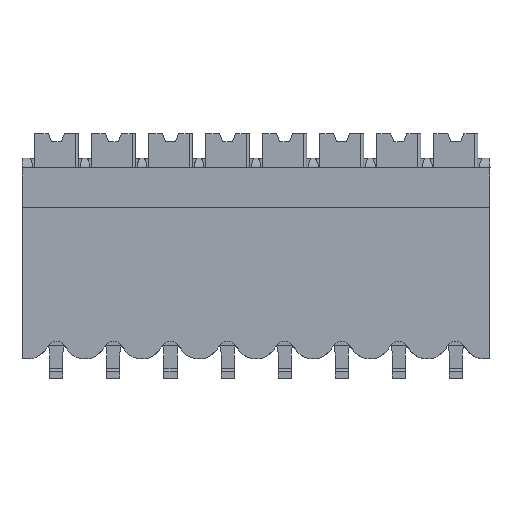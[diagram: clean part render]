
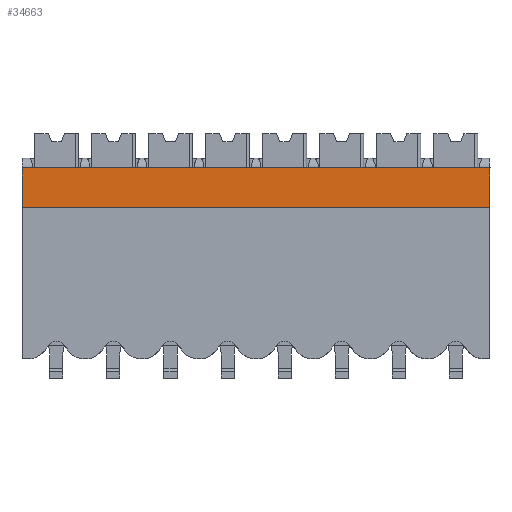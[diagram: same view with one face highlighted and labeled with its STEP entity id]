
A CAD part, front view. The second image highlights one B-rep face of the part: STEP entity #34663.
In plain terms, the highlighted planar face has unit normal (0, -1, 0).
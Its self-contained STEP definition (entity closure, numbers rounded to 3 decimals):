
#875 = EDGE_LOOP ( 'NONE', ( #21375, #29618, #47784, #5857 ) ) ;
#5635 = VECTOR ( 'NONE', #50953, 1000. ) ;
#5857 = ORIENTED_EDGE ( 'NONE', *, *, #50940, .F. ) ;
#7505 = PLANE ( 'NONE',  #37737 ) ;
#7662 = CARTESIAN_POINT ( 'NONE',  ( 7., -8.5, 0. ) ) ;
#12641 = CARTESIAN_POINT ( 'NONE',  ( -14.7, -8.5, 0. ) ) ;
#13547 = LINE ( 'NONE', #30527, #38687 ) ;
#14824 = EDGE_CURVE ( 'NONE', #38574, #44170, #13547, .T. ) ;
#18751 = CARTESIAN_POINT ( 'NONE',  ( 7., -8.5, -2.4 ) ) ;
#18955 = CARTESIAN_POINT ( 'NONE',  ( 5.075, -8.5, -1.2 ) ) ;
#21375 = ORIENTED_EDGE ( 'NONE', *, *, #41022, .F. ) ;
#26377 = DIRECTION ( 'NONE',  ( 0., 0., 1. ) ) ;
#26808 = CARTESIAN_POINT ( 'NONE',  ( 14., -8.5, -2.4 ) ) ;
#26979 = VERTEX_POINT ( 'NONE', #42470 ) ;
#27733 = EDGE_CURVE ( 'NONE', #44170, #37189, #53273, .T. ) ;
#27836 = DIRECTION ( 'NONE',  ( 0., -1., 0. ) ) ;
#29618 = ORIENTED_EDGE ( 'NONE', *, *, #14824, .T. ) ;
#30527 = CARTESIAN_POINT ( 'NONE',  ( 14., -8.5, -2.4 ) ) ;
#31912 = DIRECTION ( 'NONE',  ( -1., 0., 0. ) ) ;
#32285 = DIRECTION ( 'NONE',  ( -1., 0., 0. ) ) ;
#32787 = CARTESIAN_POINT ( 'NONE',  ( 14., -8.5, 0. ) ) ;
#33998 = CARTESIAN_POINT ( 'NONE',  ( -14.7, -8.5, -2.4 ) ) ;
#34663 = ADVANCED_FACE ( 'NONE', ( #34797 ), #7505, .T. ) ;
#34797 = FACE_OUTER_BOUND ( 'NONE', #875, .T. ) ;
#37189 = VERTEX_POINT ( 'NONE', #12641 ) ;
#37737 = AXIS2_PLACEMENT_3D ( 'NONE', #18955, #27836, #32285 ) ;
#38574 = VERTEX_POINT ( 'NONE', #26808 ) ;
#38687 = VECTOR ( 'NONE', #26377, 1000. ) ;
#39079 = LINE ( 'NONE', #18751, #46377 ) ;
#41022 = EDGE_CURVE ( 'NONE', #38574, #26979, #39079, .T. ) ;
#42470 = CARTESIAN_POINT ( 'NONE',  ( -14.7, -8.5, -2.4 ) ) ;
#42615 = LINE ( 'NONE', #33998, #5635 ) ;
#44170 = VERTEX_POINT ( 'NONE', #32787 ) ;
#46377 = VECTOR ( 'NONE', #48171, 1000. ) ;
#47153 = VECTOR ( 'NONE', #31912, 1000. ) ;
#47784 = ORIENTED_EDGE ( 'NONE', *, *, #27733, .T. ) ;
#48171 = DIRECTION ( 'NONE',  ( -1., 0., 0. ) ) ;
#50940 = EDGE_CURVE ( 'NONE', #26979, #37189, #42615, .T. ) ;
#50953 = DIRECTION ( 'NONE',  ( 0., 0., 1. ) ) ;
#53273 = LINE ( 'NONE', #7662, #47153 ) ;
